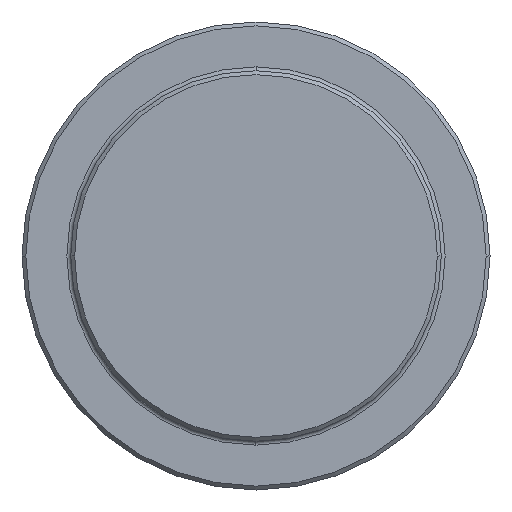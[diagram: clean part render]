
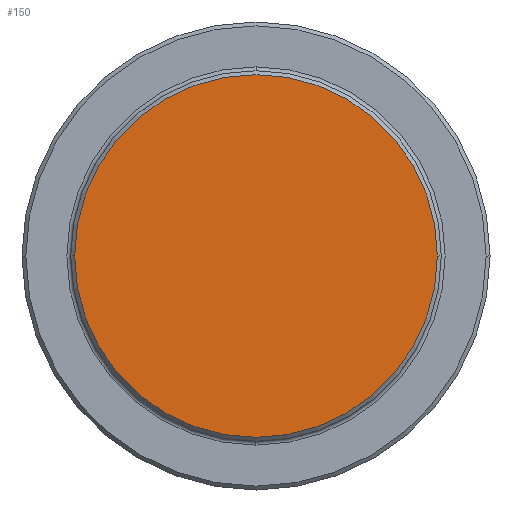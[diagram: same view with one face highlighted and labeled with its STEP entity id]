
A CAD part, left-side view. The second image highlights one B-rep face of the part: STEP entity #150.
In plain terms, the highlighted planar face has unit normal (-1, 0, 0).
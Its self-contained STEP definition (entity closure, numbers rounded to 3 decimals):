
#150=ADVANCED_FACE('',(#319),#320,.T.);
#319=FACE_OUTER_BOUND('',#511,.T.);
#320=PLANE('',#512);
#511=EDGE_LOOP('',(#863,#864));
#512=AXIS2_PLACEMENT_3D('',#865,#866,#867);
#863=ORIENTED_EDGE('',*,*,#1212,.F.);
#864=ORIENTED_EDGE('',*,*,#1178,.F.);
#865=CARTESIAN_POINT('',(0.,-4.75,0.0));
#866=DIRECTION('',(-1.0,0.0,0.0));
#867=DIRECTION('',(0.0,0.0,1.0));
#1178=EDGE_CURVE('',#1415,#1417,#1418,.T.);
#1212=EDGE_CURVE('',#1417,#1415,#1464,.T.);
#1415=VERTEX_POINT('',#1705);
#1417=VERTEX_POINT('',#1708);
#1418=CIRCLE('',#1709,9.3);
#1464=CIRCLE('',#1764,9.3);
#1705=CARTESIAN_POINT('',(0.,9.3,0.));
#1708=CARTESIAN_POINT('',(0.,-9.3,0.));
#1709=AXIS2_PLACEMENT_3D('',#1977,#1978,#1979);
#1764=AXIS2_PLACEMENT_3D('',#2028,#2029,#2030);
#1977=CARTESIAN_POINT('',(0.,0.0,0.0));
#1978=DIRECTION('',(1.0,0.0,0.0));
#1979=DIRECTION('',(0.0,1.0,0.0));
#2028=CARTESIAN_POINT('',(0.,0.0,0.0));
#2029=DIRECTION('',(1.0,0.0,0.0));
#2030=DIRECTION('',(0.0,1.0,0.0));
